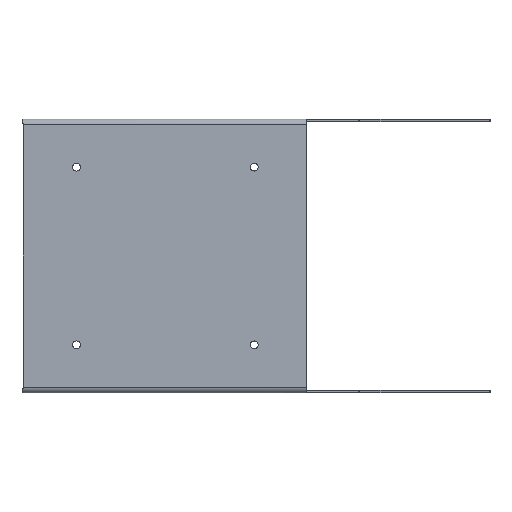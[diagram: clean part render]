
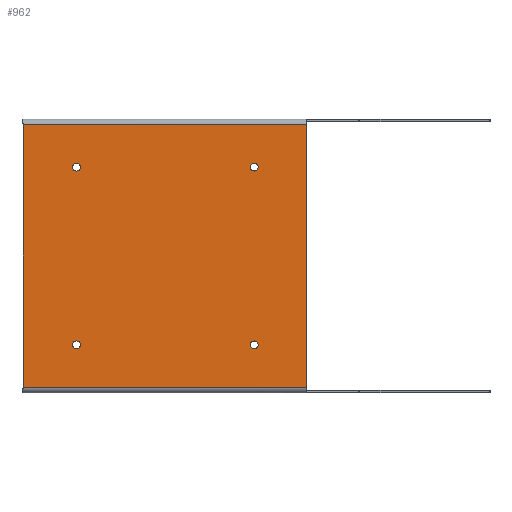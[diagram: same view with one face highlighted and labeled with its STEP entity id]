
A CAD part, front view. The second image highlights one B-rep face of the part: STEP entity #962.
In plain terms, the highlighted planar face has unit normal (0, -1, 0).
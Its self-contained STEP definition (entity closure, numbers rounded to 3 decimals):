
#6 = AXIS2_PLACEMENT_3D ( 'NONE', #156, #1322, #322 ) ;
#14 = ORIENTED_EDGE ( 'NONE', *, *, #1099, .F. ) ;
#38 = VERTEX_POINT ( 'NONE', #314 ) ;
#47 = EDGE_CURVE ( 'NONE', #1358, #1096, #696, .T. ) ;
#73 = DIRECTION ( 'NONE',  ( 0., -1., 0. ) ) ;
#82 = DIRECTION ( 'NONE',  ( 0., -1., 0. ) ) ;
#84 = EDGE_LOOP ( 'NONE', ( #2038, #1290, #892, #1184 ) ) ;
#96 = EDGE_CURVE ( 'NONE', #2083, #512, #1483, .T. ) ;
#116 = DIRECTION ( 'NONE',  ( 1., 0., 0. ) ) ;
#145 = VERTEX_POINT ( 'NONE', #2035 ) ;
#156 = CARTESIAN_POINT ( 'NONE',  ( -264., -23., 231. ) ) ;
#157 = ORIENTED_EDGE ( 'NONE', *, *, #729, .F. ) ;
#165 = CARTESIAN_POINT ( 'NONE',  ( -219., -23., 190.5 ) ) ;
#178 = AXIS2_PLACEMENT_3D ( 'NONE', #2110, #1114, #116 ) ;
#182 = CIRCLE ( 'NONE', #1022, 3.3 ) ;
#183 = VECTOR ( 'NONE', #2051, 1000. ) ;
#259 = CARTESIAN_POINT ( 'NONE',  ( -219., -23., 40.5 ) ) ;
#304 = DIRECTION ( 'NONE',  ( 0., -1., 0. ) ) ;
#305 = ORIENTED_EDGE ( 'NONE', *, *, #352, .F. ) ;
#310 = VECTOR ( 'NONE', #1767, 1000. ) ;
#314 = CARTESIAN_POINT ( 'NONE',  ( -65.7, -23., 40.5 ) ) ;
#322 = DIRECTION ( 'NONE',  ( -1., 0., 0. ) ) ;
#336 = DIRECTION ( 'NONE',  ( 1., 0., 0. ) ) ;
#352 = EDGE_CURVE ( 'NONE', #1679, #1618, #182, .T. ) ;
#358 = CARTESIAN_POINT ( 'NONE',  ( -69., -23., 190.5 ) ) ;
#371 = AXIS2_PLACEMENT_3D ( 'NONE', #1447, #454, #1611 ) ;
#384 = CIRCLE ( 'NONE', #1649, 3.3 ) ;
#389 = FACE_BOUND ( 'NONE', #1765, .T. ) ;
#394 = EDGE_LOOP ( 'NONE', ( #1866, #918 ) ) ;
#430 = DIRECTION ( 'NONE',  ( 1., 0., 0. ) ) ;
#448 = CARTESIAN_POINT ( 'NONE',  ( -72.3, -23., 190.5 ) ) ;
#454 = DIRECTION ( 'NONE',  ( 0., -1., 0. ) ) ;
#512 = VERTEX_POINT ( 'NONE', #1895 ) ;
#530 = AXIS2_PLACEMENT_3D ( 'NONE', #165, #1336, #336 ) ;
#531 = DIRECTION ( 'NONE',  ( 1., 0., 0. ) ) ;
#621 = CIRCLE ( 'NONE', #1498, 3.3 ) ;
#696 = LINE ( 'NONE', #1566, #1532 ) ;
#727 = DIRECTION ( 'NONE',  ( -1., 0., 0. ) ) ;
#729 = EDGE_CURVE ( 'NONE', #38, #1926, #384, .T. ) ;
#782 = CARTESIAN_POINT ( 'NONE',  ( -25., -23., 4.594 ) ) ;
#846 = EDGE_CURVE ( 'NONE', #1618, #1679, #621, .T. ) ;
#892 = ORIENTED_EDGE ( 'NONE', *, *, #47, .F. ) ;
#918 = ORIENTED_EDGE ( 'NONE', *, *, #2062, .F. ) ;
#951 = CARTESIAN_POINT ( 'NONE',  ( -222.3, -23., 40.5 ) ) ;
#958 = CIRCLE ( 'NONE', #178, 3.3 ) ;
#962 = ADVANCED_FACE ( 'NONE', ( #2127, #1707, #389, #1272, #2107 ), #1975, .F. ) ;
#1010 = CIRCLE ( 'NONE', #1640, 3.3 ) ;
#1022 = AXIS2_PLACEMENT_3D ( 'NONE', #358, #1518, #531 ) ;
#1036 = VECTOR ( 'NONE', #727, 1000. ) ;
#1046 = EDGE_CURVE ( 'NONE', #1358, #512, #1062, .T. ) ;
#1062 = LINE ( 'NONE', #1390, #183 ) ;
#1067 = CARTESIAN_POINT ( 'NONE',  ( -69., -23., 40.5 ) ) ;
#1073 = CARTESIAN_POINT ( 'NONE',  ( -69., -23., 40.5 ) ) ;
#1096 = VERTEX_POINT ( 'NONE', #1398 ) ;
#1099 = EDGE_CURVE ( 'NONE', #1926, #38, #1459, .T. ) ;
#1114 = DIRECTION ( 'NONE',  ( 0., -1., 0. ) ) ;
#1126 = AXIS2_PLACEMENT_3D ( 'NONE', #1073, #82, #1235 ) ;
#1173 = CARTESIAN_POINT ( 'NONE',  ( -65.7, -23., 190.5 ) ) ;
#1184 = ORIENTED_EDGE ( 'NONE', *, *, #1046, .T. ) ;
#1191 = LINE ( 'NONE', #1604, #310 ) ;
#1200 = EDGE_CURVE ( 'NONE', #1096, #2083, #1191, .T. ) ;
#1230 = DIRECTION ( 'NONE',  ( 1., 0., 0. ) ) ;
#1235 = DIRECTION ( 'NONE',  ( 1., 0., 0. ) ) ;
#1272 = FACE_BOUND ( 'NONE', #394, .T. ) ;
#1279 = CARTESIAN_POINT ( 'NONE',  ( -25., -23., 4.594 ) ) ;
#1290 = ORIENTED_EDGE ( 'NONE', *, *, #1200, .F. ) ;
#1301 = CARTESIAN_POINT ( 'NONE',  ( -69., -23., 190.5 ) ) ;
#1322 = DIRECTION ( 'NONE',  ( 0., 1., 0. ) ) ;
#1325 = CIRCLE ( 'NONE', #530, 3.3 ) ;
#1336 = DIRECTION ( 'NONE',  ( 0., -1., 0. ) ) ;
#1339 = ORIENTED_EDGE ( 'NONE', *, *, #1620, .F. ) ;
#1358 = VERTEX_POINT ( 'NONE', #1819 ) ;
#1360 = EDGE_CURVE ( 'NONE', #1778, #1630, #1325, .T. ) ;
#1390 = CARTESIAN_POINT ( 'NONE',  ( -264., -23., 231. ) ) ;
#1398 = CARTESIAN_POINT ( 'NONE',  ( -25., -23., 226.406 ) ) ;
#1425 = DIRECTION ( 'NONE',  ( 0., -1., 0. ) ) ;
#1447 = CARTESIAN_POINT ( 'NONE',  ( -219., -23., 40.5 ) ) ;
#1459 = CIRCLE ( 'NONE', #1126, 3.3 ) ;
#1469 = DIRECTION ( 'NONE',  ( 1., 0., 0. ) ) ;
#1483 = LINE ( 'NONE', #782, #1036 ) ;
#1498 = AXIS2_PLACEMENT_3D ( 'NONE', #1301, #304, #1469 ) ;
#1518 = DIRECTION ( 'NONE',  ( 0., -1., 0. ) ) ;
#1521 = EDGE_CURVE ( 'NONE', #1638, #145, #1010, .T. ) ;
#1532 = VECTOR ( 'NONE', #1784, 1000. ) ;
#1564 = CARTESIAN_POINT ( 'NONE',  ( -72.3, -23., 40.5 ) ) ;
#1566 = CARTESIAN_POINT ( 'NONE',  ( -264., -23., 226.406 ) ) ;
#1572 = EDGE_LOOP ( 'NONE', ( #1339, #1894 ) ) ;
#1604 = CARTESIAN_POINT ( 'NONE',  ( -25., -23., 231. ) ) ;
#1611 = DIRECTION ( 'NONE',  ( 1., 0., 0. ) ) ;
#1618 = VERTEX_POINT ( 'NONE', #448 ) ;
#1620 = EDGE_CURVE ( 'NONE', #145, #1638, #1732, .T. ) ;
#1630 = VERTEX_POINT ( 'NONE', #1939 ) ;
#1638 = VERTEX_POINT ( 'NONE', #951 ) ;
#1640 = AXIS2_PLACEMENT_3D ( 'NONE', #259, #1425, #430 ) ;
#1649 = AXIS2_PLACEMENT_3D ( 'NONE', #1067, #73, #1230 ) ;
#1679 = VERTEX_POINT ( 'NONE', #1173 ) ;
#1691 = CARTESIAN_POINT ( 'NONE',  ( -215.7, -23., 190.5 ) ) ;
#1707 = FACE_BOUND ( 'NONE', #1572, .T. ) ;
#1732 = CIRCLE ( 'NONE', #371, 3.3 ) ;
#1765 = EDGE_LOOP ( 'NONE', ( #305, #2066 ) ) ;
#1767 = DIRECTION ( 'NONE',  ( 0., 0., -1. ) ) ;
#1778 = VERTEX_POINT ( 'NONE', #1691 ) ;
#1784 = DIRECTION ( 'NONE',  ( 1., 0., 0. ) ) ;
#1795 = EDGE_LOOP ( 'NONE', ( #157, #14 ) ) ;
#1819 = CARTESIAN_POINT ( 'NONE',  ( -264., -23., 226.406 ) ) ;
#1866 = ORIENTED_EDGE ( 'NONE', *, *, #1360, .F. ) ;
#1894 = ORIENTED_EDGE ( 'NONE', *, *, #1521, .F. ) ;
#1895 = CARTESIAN_POINT ( 'NONE',  ( -264., -23., 4.594 ) ) ;
#1926 = VERTEX_POINT ( 'NONE', #1564 ) ;
#1939 = CARTESIAN_POINT ( 'NONE',  ( -222.3, -23., 190.5 ) ) ;
#1975 = PLANE ( 'NONE',  #6 ) ;
#2035 = CARTESIAN_POINT ( 'NONE',  ( -215.7, -23., 40.5 ) ) ;
#2038 = ORIENTED_EDGE ( 'NONE', *, *, #96, .F. ) ;
#2051 = DIRECTION ( 'NONE',  ( 0., 0., -1. ) ) ;
#2062 = EDGE_CURVE ( 'NONE', #1630, #1778, #958, .T. ) ;
#2066 = ORIENTED_EDGE ( 'NONE', *, *, #846, .F. ) ;
#2083 = VERTEX_POINT ( 'NONE', #1279 ) ;
#2107 = FACE_OUTER_BOUND ( 'NONE', #84, .T. ) ;
#2110 = CARTESIAN_POINT ( 'NONE',  ( -219., -23., 190.5 ) ) ;
#2127 = FACE_BOUND ( 'NONE', #1795, .T. ) ;
